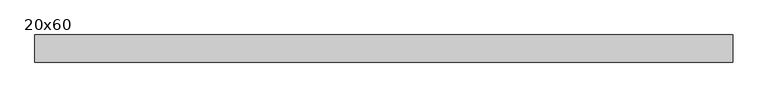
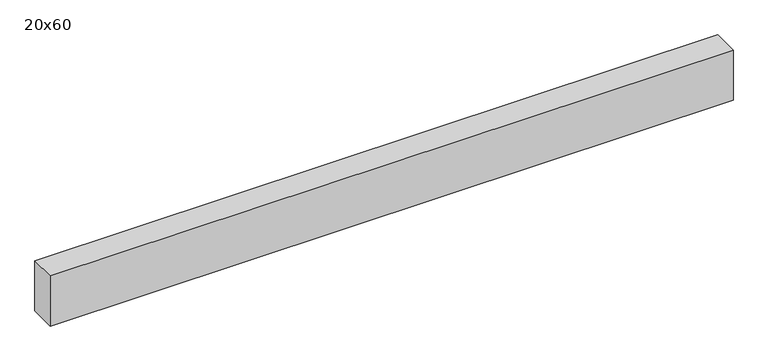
"""IFC4 building model written with IfcOpenShell, lengths in millimetres: beam geometry, C&L poutre béton gestion affichage par niveau : 20x60."""

from ifc_helpers import new_model, si_unit, frame, origin, place, context, project, spatial, polyline, outline, extrude, source, transform, mapped, element, save


def beam_20x60_a1558c24(model_context):
    return source(origin(), model_context, "Body", "SweptSolid", [
        extrude(outline(polyline([(2570.0, 100.0), (2570.0, -100.0), (-2570.0, -100.0), (-2570.0, 100.0), (2570.0, 100.0)])), frame((0.0, 0.0, -200.0), z_axis=(0.0, 0.0, 1.0), x_axis=(1.0, 0.0, 0.0)), (0.0, 0.0, 1.0), 400.0),
    ])


if __name__ == "__main__":
    model = new_model("IFC4")
    model_context = context("Model", 3, world=origin())
    ifc_project = project(units=[si_unit("LENGTHUNIT", "METRE", prefix="MILLI")], contexts=[model_context])
    site = spatial("IfcSite", under=ifc_project)
    building = spatial("IfcBuilding", under=site)
    placement = place(None, origin())
    beam_20x60_shape = beam_20x60_a1558c24(model_context)
    element("IfcBeam", 1, ObjectType="C&L poutre béton gestion affichage par niveau : 20x60", at=placement, inside=building, context=model_context, shape_type="MappedRepresentation", body=[
        mapped(beam_20x60_shape, transform((0.0, 0.0, 0.0), x_axis=(1.0, 0.0, 0.0), y_axis=(0.0, 1.0, 0.0), z_axis=(0.0, 0.0, 1.0))),
    ])
    save(model, "model.ifc")
